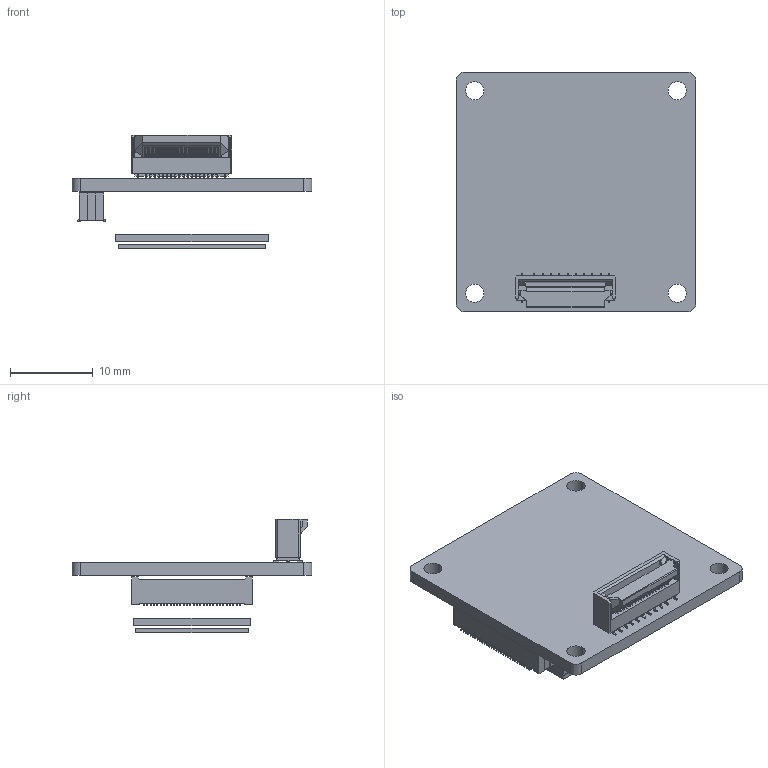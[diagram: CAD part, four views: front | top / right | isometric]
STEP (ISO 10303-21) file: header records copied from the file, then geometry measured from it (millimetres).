
FILE_DESCRIPTION((''),'2;1');
FILE_NAME('MV-CB050-60UM-C','2025-12-01T21:09:35',('zhangqianwen8'),(''),'CREO PARAMETRIC BY PTC INC, 2020044','CREO PARAMETRIC BY PTC INC, 2020044','');
FILE_SCHEMA(('CONFIG_CONTROL_DESIGN'));
Products named in the file (1): MV-CB050-60UM-C
Bounding box: 29 x 29 x 13.77 mm (x, y, z)
Volume: 1943.1 mm3; surface area: 3772.7 mm2
Topology: 4 solids, 4 shells, 3151 faces, 9364 edges, 6304 vertices
Faces by surface type: plane 2297, cylinder 830, cone 16, torus 4, bspline 4
Entity records: 106350 total; most frequent: CARTESIAN_POINT 19675, ORIENTED_EDGE 18728, DIRECTION 17526, EDGE_CURVE 9364, VECTOR 7392, LINE 7392, VERTEX_POINT 6304, AXIS2_PLACEMENT_3D 5067
